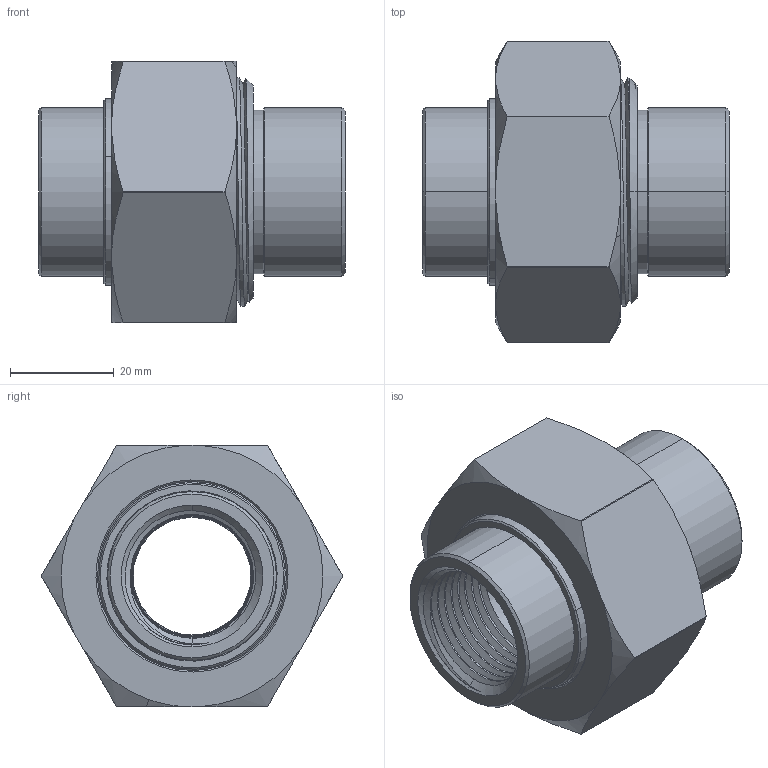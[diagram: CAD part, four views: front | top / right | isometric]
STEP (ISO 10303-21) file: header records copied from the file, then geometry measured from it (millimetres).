
FILE_DESCRIPTION (( 'STEP AP203' ), '1' );
FILE_NAME ('701-404.STEP', '2022-03-21T04:54:04', ( '' ), ( '' ), 'SwSTEP 2.0', 'SolidWorks 2012', '' );
FILE_SCHEMA (( 'CONFIG_CONTROL_DESIGN' ));
Length unit declared in the file: millimetre
Products named in the file (6): 铁内牙接头（放在尼龙隔套里面）; 701-404; 呿蹋杶; 鞠褒簽; 菜え; 内牙接头（网纹滚花）
Assembly tree (5 placements, depth 2):
  701-404
    内牙接头（网纹滚花）
    鞠褒簽
    菜え
    呿蹋杶
    铁内牙接头（放在尼龙隔套里面）
Bounding box: 59.1 x 58 x 50.3 mm (x, y, z)
Volume: 55363.7 mm3; surface area: 32990.6 mm2
Topology: 5 solids, 5 shells, 187 faces, 477 edges, 307 vertices
Faces by surface type: cone 87, cylinder 61, plane 26, bspline 9, torus 4
Entity records: 14073 total; most frequent: CARTESIAN_POINT 9241, ORIENTED_EDGE 954, DIRECTION 794, EDGE_CURVE 477, AXIS2_PLACEMENT_3D 315, VERTEX_POINT 307, EDGE_LOOP 204, ADVANCED_FACE 187
